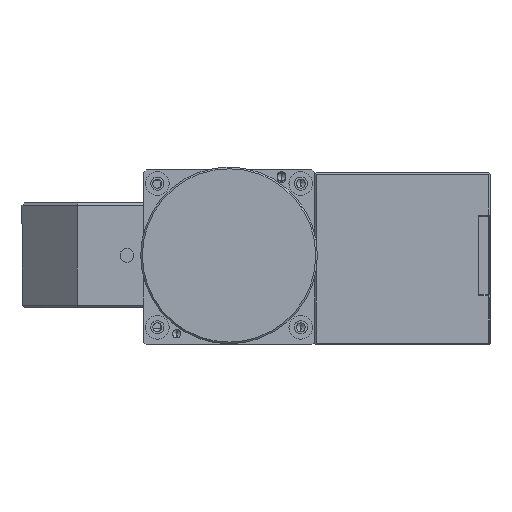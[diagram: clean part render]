
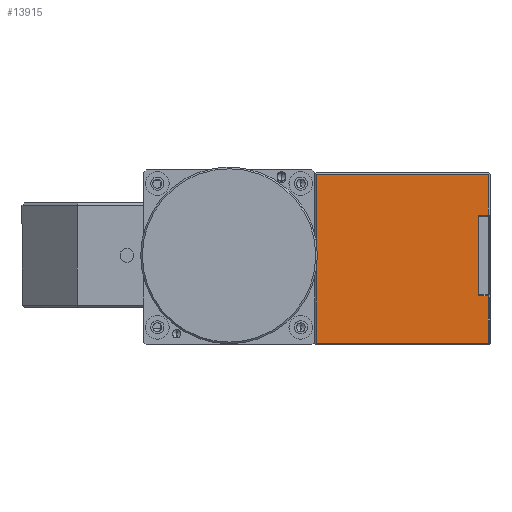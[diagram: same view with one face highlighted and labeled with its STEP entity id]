
A CAD part, left-side view. The second image highlights one B-rep face of the part: STEP entity #13915.
In plain terms, the highlighted planar face has unit normal (-1, 0, 0).
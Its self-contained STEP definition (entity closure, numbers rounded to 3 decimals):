
#16 = EDGE_LOOP ( 'NONE', ( #10885, #141, #11261, #10998, #9468, #4970, #11862, #7816 ) ) ;
#141 = ORIENTED_EDGE ( 'NONE', *, *, #12142, .T. ) ;
#147 = LINE ( 'NONE', #12675, #13221 ) ;
#583 = VECTOR ( 'NONE', #12604, 1000. ) ;
#845 = EDGE_CURVE ( 'NONE', #4211, #3634, #5874, .T. ) ;
#2395 = CARTESIAN_POINT ( 'NONE',  ( 49.63, -15.8, -15.9 ) ) ;
#2985 = CARTESIAN_POINT ( 'NONE',  ( 49.63, -46.96, 14.7 ) ) ;
#3231 = DIRECTION ( 'NONE',  ( -1., 0., 0. ) ) ;
#3634 = VERTEX_POINT ( 'NONE', #13905 ) ;
#4211 = VERTEX_POINT ( 'NONE', #2985 ) ;
#4491 = CARTESIAN_POINT ( 'NONE',  ( 49.63, -46.96, -16.2 ) ) ;
#4970 = ORIENTED_EDGE ( 'NONE', *, *, #9069, .T. ) ;
#5270 = VECTOR ( 'NONE', #17719, 1000. ) ;
#5651 = VERTEX_POINT ( 'NONE', #13122 ) ;
#5773 = VERTEX_POINT ( 'NONE', #18015 ) ;
#5776 = EDGE_CURVE ( 'NONE', #15041, #17849, #147, .T. ) ;
#5874 = LINE ( 'NONE', #10319, #14066 ) ;
#5971 = LINE ( 'NONE', #16882, #12607 ) ;
#6552 = LINE ( 'NONE', #16762, #583 ) ;
#7079 = LINE ( 'NONE', #10573, #8172 ) ;
#7408 = PLANE ( 'NONE',  #10108 ) ;
#7816 = ORIENTED_EDGE ( 'NONE', *, *, #15982, .T. ) ;
#7909 = CARTESIAN_POINT ( 'NONE',  ( 49.63, -46.96, -15.9 ) ) ;
#8172 = VECTOR ( 'NONE', #13232, 1000. ) ;
#8217 = FACE_OUTER_BOUND ( 'NONE', #16, .T. ) ;
#8644 = VECTOR ( 'NONE', #12942, 1000. ) ;
#8757 = CARTESIAN_POINT ( 'NONE',  ( 49.63, -46.96, 7.3 ) ) ;
#8901 = CARTESIAN_POINT ( 'NONE',  ( 49.63, -15.5, -16.2 ) ) ;
#9069 = EDGE_CURVE ( 'NONE', #17849, #4211, #17085, .T. ) ;
#9468 = ORIENTED_EDGE ( 'NONE', *, *, #5776, .T. ) ;
#9671 = EDGE_CURVE ( 'NONE', #5773, #5651, #7079, .T. ) ;
#9760 = DIRECTION ( 'NONE',  ( 0., 0., -1. ) ) ;
#10108 = AXIS2_PLACEMENT_3D ( 'NONE', #8901, #3231, #17274 ) ;
#10220 = CARTESIAN_POINT ( 'NONE',  ( 49.63, -45.16, 7.3 ) ) ;
#10319 = CARTESIAN_POINT ( 'NONE',  ( 49.63, -15.5, 14.7 ) ) ;
#10573 = CARTESIAN_POINT ( 'NONE',  ( 49.63, -45.16, -7.3 ) ) ;
#10589 = CARTESIAN_POINT ( 'NONE',  ( 49.63, -45.16, -16.2 ) ) ;
#10885 = ORIENTED_EDGE ( 'NONE', *, *, #17499, .T. ) ;
#10998 = ORIENTED_EDGE ( 'NONE', *, *, #12583, .T. ) ;
#11261 = ORIENTED_EDGE ( 'NONE', *, *, #9671, .T. ) ;
#11862 = ORIENTED_EDGE ( 'NONE', *, *, #845, .T. ) ;
#12094 = CARTESIAN_POINT ( 'NONE',  ( 49.63, -46.96, -16.2 ) ) ;
#12142 = EDGE_CURVE ( 'NONE', #14117, #5773, #17434, .T. ) ;
#12583 = EDGE_CURVE ( 'NONE', #5651, #15041, #14324, .T. ) ;
#12604 = DIRECTION ( 'NONE',  ( 0., -1., 0. ) ) ;
#12607 = VECTOR ( 'NONE', #9760, 1000. ) ;
#12675 = CARTESIAN_POINT ( 'NONE',  ( 49.63, -47.26, 7.3 ) ) ;
#12942 = DIRECTION ( 'NONE',  ( 0., 0., 1. ) ) ;
#13122 = CARTESIAN_POINT ( 'NONE',  ( 49.63, -45.16, -7.3 ) ) ;
#13221 = VECTOR ( 'NONE', #17011, 1000. ) ;
#13232 = DIRECTION ( 'NONE',  ( 0., 1., 0. ) ) ;
#13510 = DIRECTION ( 'NONE',  ( 0., 0., 1. ) ) ;
#13905 = CARTESIAN_POINT ( 'NONE',  ( 49.63, -15.8, 14.7 ) ) ;
#13915 = ADVANCED_FACE ( 'NONE', ( #8217 ), #7408, .T. ) ;
#14066 = VECTOR ( 'NONE', #15983, 1000. ) ;
#14117 = VERTEX_POINT ( 'NONE', #7909 ) ;
#14324 = LINE ( 'NONE', #10589, #14553 ) ;
#14553 = VECTOR ( 'NONE', #13510, 1000. ) ;
#15041 = VERTEX_POINT ( 'NONE', #10220 ) ;
#15982 = EDGE_CURVE ( 'NONE', #3634, #16479, #5971, .T. ) ;
#15983 = DIRECTION ( 'NONE',  ( 0., 1., 0. ) ) ;
#16479 = VERTEX_POINT ( 'NONE', #2395 ) ;
#16762 = CARTESIAN_POINT ( 'NONE',  ( 49.63, -47.26, -15.9 ) ) ;
#16882 = CARTESIAN_POINT ( 'NONE',  ( 49.63, -15.8, -16.2 ) ) ;
#17011 = DIRECTION ( 'NONE',  ( 0., -1., 0. ) ) ;
#17085 = LINE ( 'NONE', #4491, #8644 ) ;
#17274 = DIRECTION ( 'NONE',  ( 0., -1., 0. ) ) ;
#17434 = LINE ( 'NONE', #12094, #5270 ) ;
#17499 = EDGE_CURVE ( 'NONE', #16479, #14117, #6552, .T. ) ;
#17719 = DIRECTION ( 'NONE',  ( 0., 0., 1. ) ) ;
#17849 = VERTEX_POINT ( 'NONE', #8757 ) ;
#18015 = CARTESIAN_POINT ( 'NONE',  ( 49.63, -46.96, -7.3 ) ) ;
